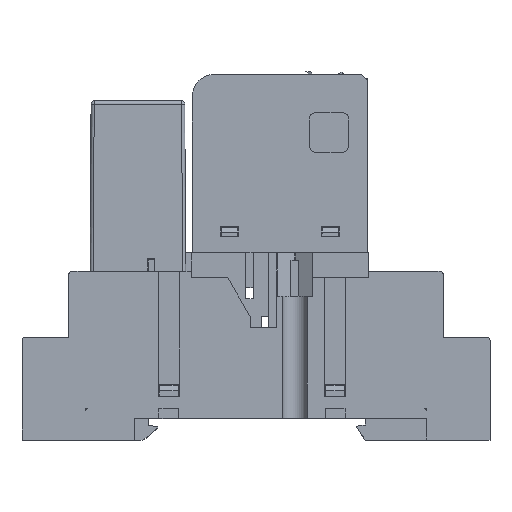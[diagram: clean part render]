
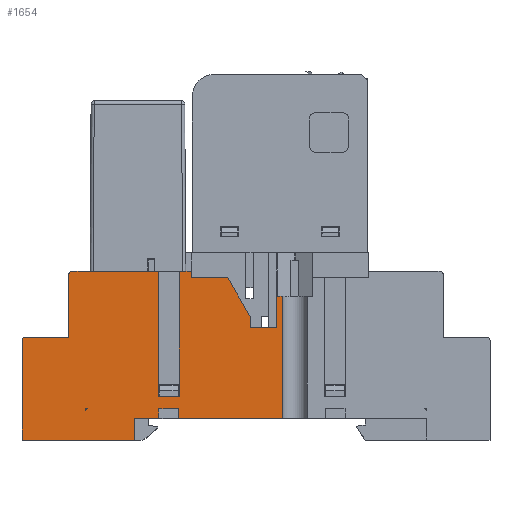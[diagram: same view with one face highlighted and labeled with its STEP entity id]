
A CAD part, top view. The second image highlights one B-rep face of the part: STEP entity #1654.
In plain terms, the highlighted planar face has unit normal (0, 0, 1).
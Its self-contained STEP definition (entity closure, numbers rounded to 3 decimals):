
#1654=ADVANCED_FACE('',(#31175,#31177),#31179,.T.);
#31175=FACE_BOUND('',#31176,.T.);
#31176=EDGE_LOOP('',(#58918,#58919,#58920,#58921,#58922,#58923,#58924,#58925,#58926,
#58927,#58928,#58929,#58930,#58931,#58932,#58933,#58934,#58935,#58936,#58937,#58938,
#58939,#58940,#58941,#58942));
#31177=FACE_BOUND('',#31178,.T.);
#31178=EDGE_LOOP('',(#58943,#58944,#58945));
#31179=PLANE('',#31180);
#31180=AXIS2_PLACEMENT_3D('',#31181,#31182,#31183);
#31181=CARTESIAN_POINT('',(-43.65,0.,15.));
#31182=DIRECTION('',(0.,0.,1.));
#31183=DIRECTION('',(1.,0.,0.));
#58918=ORIENTED_EDGE('',*,*,#76724,.T.);
#58919=ORIENTED_EDGE('',*,*,#76725,.T.);
#58920=ORIENTED_EDGE('',*,*,#76726,.T.);
#58921=ORIENTED_EDGE('',*,*,#76325,.F.);
#58922=ORIENTED_EDGE('',*,*,#76723,.F.);
#58923=ORIENTED_EDGE('',*,*,#76727,.T.);
#58924=ORIENTED_EDGE('',*,*,#76728,.T.);
#58925=ORIENTED_EDGE('',*,*,#76729,.F.);
#58926=ORIENTED_EDGE('',*,*,#76730,.F.);
#58927=ORIENTED_EDGE('',*,*,#76731,.T.);
#58928=ORIENTED_EDGE('',*,*,#76732,.T.);
#58929=ORIENTED_EDGE('',*,*,#76733,.F.);
#58930=ORIENTED_EDGE('',*,*,#76734,.T.);
#58931=ORIENTED_EDGE('',*,*,#76735,.T.);
#58932=ORIENTED_EDGE('',*,*,#76736,.T.);
#58933=ORIENTED_EDGE('',*,*,#76737,.F.);
#58934=ORIENTED_EDGE('',*,*,#76738,.T.);
#58935=ORIENTED_EDGE('',*,*,#76739,.F.);
#58936=ORIENTED_EDGE('',*,*,#76740,.T.);
#58937=ORIENTED_EDGE('',*,*,#76741,.T.);
#58938=ORIENTED_EDGE('',*,*,#76742,.T.);
#58939=ORIENTED_EDGE('',*,*,#76743,.T.);
#58940=ORIENTED_EDGE('',*,*,#76744,.T.);
#58941=ORIENTED_EDGE('',*,*,#76745,.T.);
#58942=ORIENTED_EDGE('',*,*,#76329,.F.);
#58943=ORIENTED_EDGE('',*,*,#76746,.T.);
#58944=ORIENTED_EDGE('',*,*,#76747,.T.);
#58945=ORIENTED_EDGE('',*,*,#76748,.F.);
#76325=EDGE_CURVE('',#85664,#85666,#85667,.T.);
#76329=EDGE_CURVE('',#85672,#85674,#85675,.T.);
#76723=EDGE_CURVE('',#86353,#85664,#86355,.F.);
#76724=EDGE_CURVE('',#85672,#86356,#86357,.F.);
#76725=EDGE_CURVE('',#86356,#86358,#86359,.F.);
#76726=EDGE_CURVE('',#86358,#85666,#86360,.F.);
#76727=EDGE_CURVE('',#86353,#86361,#86362,.F.);
#76728=EDGE_CURVE('',#86361,#86363,#86364,.T.);
#76729=EDGE_CURVE('',#86365,#86363,#86366,.F.);
#76730=EDGE_CURVE('',#86367,#86365,#86368,.T.);
#76731=EDGE_CURVE('',#86367,#86369,#86370,.T.);
#76732=EDGE_CURVE('',#86369,#86371,#86372,.T.);
#76733=EDGE_CURVE('',#86373,#86371,#86374,.T.);
#76734=EDGE_CURVE('',#86373,#86375,#86376,.F.);
#76735=EDGE_CURVE('',#86375,#86377,#86378,.F.);
#76736=EDGE_CURVE('',#86377,#86379,#86380,.F.);
#76737=EDGE_CURVE('',#86381,#86379,#86382,.T.);
#76738=EDGE_CURVE('',#86381,#86383,#86384,.T.);
#76739=EDGE_CURVE('',#86385,#86383,#86386,.T.);
#76740=EDGE_CURVE('',#86385,#86387,#86388,.F.);
#76741=EDGE_CURVE('',#86387,#86389,#86390,.F.);
#76742=EDGE_CURVE('',#86389,#86391,#86392,.F.);
#76743=EDGE_CURVE('',#86391,#86393,#86394,.F.);
#76744=EDGE_CURVE('',#86393,#86395,#86396,.F.);
#76745=EDGE_CURVE('',#86395,#85674,#86397,.F.);
#76746=EDGE_CURVE('',#86398,#86399,#86400,.F.);
#76747=EDGE_CURVE('',#86399,#86401,#86402,.F.);
#76748=EDGE_CURVE('',#86398,#86401,#86403,.F.);
#85664=VERTEX_POINT('',#101325);
#85666=VERTEX_POINT('',#101329);
#85667=LINE('',#101330,#101331);
#85672=VERTEX_POINT('',#101341);
#85674=VERTEX_POINT('',#101345);
#85675=LINE('',#101346,#101347);
#86353=VERTEX_POINT('',#102848);
#86355=CIRCLE('',#102852,0.5);
#86356=VERTEX_POINT('',#102856);
#86357=LINE('',#102857,#102858);
#86358=VERTEX_POINT('',#102860);
#86359=LINE('',#102861,#102862);
#86360=LINE('',#102864,#102865);
#86361=VERTEX_POINT('',#102867);
#86362=LINE('',#102868,#102869);
#86363=VERTEX_POINT('',#102871);
#86364=LINE('',#102872,#102873);
#86365=VERTEX_POINT('',#102875);
#86366=CIRCLE('',#102876,0.5);
#86367=VERTEX_POINT('',#102880);
#86368=LINE('',#102881,#102882);
#86369=VERTEX_POINT('',#102884);
#86370=LINE('',#102885,#102886);
#86371=VERTEX_POINT('',#102888);
#86372=LINE('',#102889,#102890);
#86373=VERTEX_POINT('',#102892);
#86374=LINE('',#102893,#102894);
#86375=VERTEX_POINT('',#102896);
#86376=LINE('',#102897,#102898);
#86377=VERTEX_POINT('',#102900);
#86378=LINE('',#102901,#102902);
#86379=VERTEX_POINT('',#102904);
#86380=LINE('',#102905,#102906);
#86381=VERTEX_POINT('',#102908);
#86382=LINE('',#102909,#102910);
#86383=VERTEX_POINT('',#102912);
#86384=LINE('',#102913,#102914);
#86385=VERTEX_POINT('',#102916);
#86386=LINE('',#102917,#102918);
#86387=VERTEX_POINT('',#102920);
#86388=LINE('',#102921,#102922);
#86389=VERTEX_POINT('',#102924);
#86390=LINE('',#102925,#102926);
#86391=VERTEX_POINT('',#102928);
#86392=LINE('',#102929,#102930);
#86393=VERTEX_POINT('',#102932);
#86394=LINE('',#102933,#102934);
#86395=VERTEX_POINT('',#102936);
#86396=LINE('',#102937,#102938);
#86397=LINE('',#102940,#102941);
#86398=VERTEX_POINT('',#102943);
#86399=VERTEX_POINT('',#102944);
#86400=LINE('',#102945,#102946);
#86401=VERTEX_POINT('',#102948);
#86402=LINE('',#102949,#102950);
#86403=CIRCLE('',#102952,0.3);
#101325=CARTESIAN_POINT('',(-35.65,27.,15.));
#101329=CARTESIAN_POINT('',(-21.85,27.,15.));
#101330=CARTESIAN_POINT('',(-35.65,27.,15.));
#101331=VECTOR('',#101332,1.);
#101332=DIRECTION('',(1.,0.,0.));
#101341=CARTESIAN_POINT('',(-18.45,27.,15.));
#101345=CARTESIAN_POINT('',(-16.55,27.,15.));
#101346=CARTESIAN_POINT('',(-18.45,27.,15.));
#101347=VECTOR('',#101348,1.);
#101348=DIRECTION('',(1.,0.,0.));
#102848=CARTESIAN_POINT('',(-36.15,26.5,15.));
#102852=AXIS2_PLACEMENT_3D('',#102853,#102854,#102855);
#102853=CARTESIAN_POINT('',(-35.65,26.5,15.));
#102854=DIRECTION('',(0.,-0.,1.));
#102855=DIRECTION('',(0.,1.,0.));
#102856=CARTESIAN_POINT('',(-18.45,7.,15.));
#102857=CARTESIAN_POINT('',(-18.45,7.,15.));
#102858=VECTOR('',#102859,1.);
#102859=DIRECTION('',(0.,1.,0.));
#102860=CARTESIAN_POINT('',(-21.85,7.,15.));
#102861=CARTESIAN_POINT('',(-21.85,7.,15.));
#102862=VECTOR('',#102863,1.);
#102863=DIRECTION('',(1.,0.,0.));
#102864=CARTESIAN_POINT('',(-21.85,27.,15.));
#102865=VECTOR('',#102866,1.);
#102866=DIRECTION('',(0.,-1.,0.));
#102867=CARTESIAN_POINT('',(-36.15,16.5,15.));
#102868=CARTESIAN_POINT('',(-36.15,16.5,15.));
#102869=VECTOR('',#102870,1.);
#102870=DIRECTION('',(0.,1.,0.));
#102871=CARTESIAN_POINT('',(-43.15,16.5,15.));
#102872=CARTESIAN_POINT('',(-36.15,16.5,15.));
#102873=VECTOR('',#102874,1.);
#102874=DIRECTION('',(-1.,0.,0.));
#102875=CARTESIAN_POINT('',(-43.65,16.,15.));
#102876=AXIS2_PLACEMENT_3D('',#102877,#102878,#102879);
#102877=CARTESIAN_POINT('',(-43.15,16.,15.));
#102878=DIRECTION('',(0.,-0.,1.));
#102879=DIRECTION('',(0.,1.,0.));
#102880=CARTESIAN_POINT('',(-43.65,0.,15.));
#102881=CARTESIAN_POINT('',(-43.65,0.,15.));
#102882=VECTOR('',#102883,1.);
#102883=DIRECTION('',(0.,1.,0.));
#102884=CARTESIAN_POINT('',(-25.65,0.,15.));
#102885=CARTESIAN_POINT('',(-43.65,0.,15.));
#102886=VECTOR('',#102887,1.);
#102887=DIRECTION('',(1.,0.,0.));
#102888=CARTESIAN_POINT('',(-25.65,3.5,15.));
#102889=CARTESIAN_POINT('',(-25.65,0.,15.));
#102890=VECTOR('',#102891,1.);
#102891=DIRECTION('',(0.,1.,0.));
#102892=CARTESIAN_POINT('',(-21.75,3.5,15.));
#102893=CARTESIAN_POINT('',(-21.75,3.5,15.));
#102894=VECTOR('',#102895,1.);
#102895=DIRECTION('',(-1.,0.,0.));
#102896=CARTESIAN_POINT('',(-21.75,5.,15.));
#102897=CARTESIAN_POINT('',(-21.75,5.,15.));
#102898=VECTOR('',#102899,1.);
#102899=DIRECTION('',(0.,-1.,0.));
#102900=CARTESIAN_POINT('',(-18.55,5.,15.));
#102901=CARTESIAN_POINT('',(-18.55,5.,15.));
#102902=VECTOR('',#102903,1.);
#102903=DIRECTION('',(-1.,0.,0.));
#102904=CARTESIAN_POINT('',(-18.55,3.5,15.));
#102905=CARTESIAN_POINT('',(-18.55,3.5,15.));
#102906=VECTOR('',#102907,1.);
#102907=DIRECTION('',(0.,1.,0.));
#102908=CARTESIAN_POINT('',(-2.,3.5,15.));
#102909=CARTESIAN_POINT('',(-2.,3.5,15.));
#102910=VECTOR('',#102911,1.);
#102911=DIRECTION('',(-1.,0.,0.));
#102912=CARTESIAN_POINT('',(-2.,23.,15.));
#102913=CARTESIAN_POINT('',(-2.,3.5,15.));
#102914=VECTOR('',#102915,1.);
#102915=DIRECTION('',(0.,1.,0.));
#102916=CARTESIAN_POINT('',(-2.9,23.,15.));
#102917=CARTESIAN_POINT('',(-2.9,23.,15.));
#102918=VECTOR('',#102919,1.);
#102919=DIRECTION('',(1.,0.,0.));
#102920=CARTESIAN_POINT('',(-2.9,18.,15.));
#102921=CARTESIAN_POINT('',(-2.9,18.,15.));
#102922=VECTOR('',#102923,1.);
#102923=DIRECTION('',(0.,1.,0.));
#102924=CARTESIAN_POINT('',(-7.15,18.,15.));
#102925=CARTESIAN_POINT('',(-7.15,18.,15.));
#102926=VECTOR('',#102927,1.);
#102927=DIRECTION('',(1.,0.,0.));
#102928=CARTESIAN_POINT('',(-7.15,19.8,15.));
#102929=CARTESIAN_POINT('',(-7.15,19.8,15.));
#102930=VECTOR('',#102931,1.);
#102931=DIRECTION('',(0.,-1.,0.));
#102932=CARTESIAN_POINT('',(-10.73,26.,15.));
#102933=CARTESIAN_POINT('',(-10.73,26.,15.));
#102934=VECTOR('',#102935,1.);
#102935=DIRECTION('',(0.5,-0.866,0.));
#102936=CARTESIAN_POINT('',(-16.55,26.,15.));
#102937=CARTESIAN_POINT('',(-16.55,26.,15.));
#102938=VECTOR('',#102939,1.);
#102939=DIRECTION('',(1.,0.,0.));
#102940=CARTESIAN_POINT('',(-16.55,27.,15.));
#102941=VECTOR('',#102942,1.);
#102942=DIRECTION('',(0.,-1.,0.));
#102943=CARTESIAN_POINT('',(-33.45,4.7,15.));
#102944=CARTESIAN_POINT('',(-33.45,5.,15.));
#102945=CARTESIAN_POINT('',(-33.45,5.,15.));
#102946=VECTOR('',#102947,1.);
#102947=DIRECTION('',(0.,-1.,0.));
#102948=CARTESIAN_POINT('',(-33.15,5.,15.));
#102949=CARTESIAN_POINT('',(-33.15,5.,15.));
#102950=VECTOR('',#102951,1.);
#102951=DIRECTION('',(-1.,0.,0.));
#102952=AXIS2_PLACEMENT_3D('',#102953,#102954,#102955);
#102953=CARTESIAN_POINT('',(-33.15,4.7,15.));
#102954=DIRECTION('',(0.,-0.,1.));
#102955=DIRECTION('',(0.,1.,0.));
